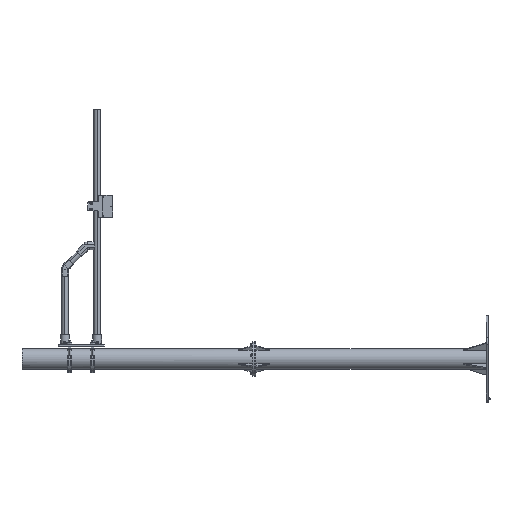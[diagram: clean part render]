
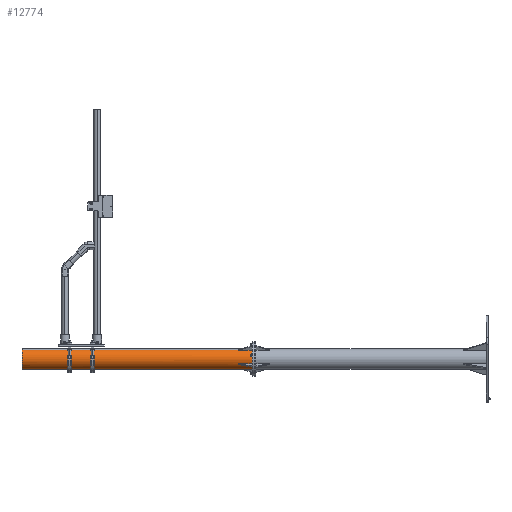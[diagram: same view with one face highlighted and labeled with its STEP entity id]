
A CAD part, left-side view. The second image highlights one B-rep face of the part: STEP entity #12774.
In plain terms, the highlighted cylindrical face has radius 44.25 mm (diameter 88.5 mm), a partial arc.
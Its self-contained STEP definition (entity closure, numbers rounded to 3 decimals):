
#95 = VERTEX_POINT ( 'NONE', #1404 ) ;
#181 = ORIENTED_EDGE ( 'NONE', *, *, #7230, .F. ) ;
#228 = CARTESIAN_POINT ( 'NONE',  ( 0., 256.388, -55. ) ) ;
#394 = CARTESIAN_POINT ( 'NONE',  ( 0., -743.612, -55. ) ) ;
#493 = EDGE_CURVE ( 'NONE', #95, #13401, #4334, .T. ) ;
#1001 = DIRECTION ( 'NONE',  ( -0.5, 0., 0.866 ) ) ;
#1305 = ORIENTED_EDGE ( 'NONE', *, *, #5804, .F. ) ;
#1374 = VECTOR ( 'NONE', #5513, 1000. ) ;
#1404 = CARTESIAN_POINT ( 'NONE',  ( 22.125, -683.612, -93.322 ) ) ;
#1428 = VERTEX_POINT ( 'NONE', #11315 ) ;
#1486 = CARTESIAN_POINT ( 'NONE',  ( 22.125, -683.612, -93.322 ) ) ;
#1613 = VERTEX_POINT ( 'NONE', #4742 ) ;
#1785 = VERTEX_POINT ( 'NONE', #5228 ) ;
#1849 = CARTESIAN_POINT ( 'NONE',  ( -23.557, -683.547, -17.533 ) ) ;
#2133 = ORIENTED_EDGE ( 'NONE', *, *, #14544, .T. ) ;
#2352 =( BOUNDED_CURVE ( )  B_SPLINE_CURVE ( 3, ( #12473, #1849, #13407, #14651 ),
 .UNSPECIFIED., .F., .T. ) 
 B_SPLINE_CURVE_WITH_KNOTS ( ( 4, 4 ),
 ( 3.085, 3.142 ),
 .UNSPECIFIED. ) 
 CURVE ( )  GEOMETRIC_REPRESENTATION_ITEM ( )  RATIONAL_B_SPLINE_CURVE ( ( 1., 1., 1., 1. ) ) 
 REPRESENTATION_ITEM ( '' )  );
#2663 = CARTESIAN_POINT ( 'NONE',  ( -38.759, -683.677, -76.414 ) ) ;
#2682 = CARTESIAN_POINT ( 'NONE',  ( 22.125, -743.612, -93.322 ) ) ;
#2773 = CARTESIAN_POINT ( 'NONE',  ( 21.403, -683.612, -93.739 ) ) ;
#2865 = CARTESIAN_POINT ( 'NONE',  ( 20.669, -683.547, -94.135 ) ) ;
#2883 = CARTESIAN_POINT ( 'NONE',  ( -39.51, -743.612, -74.925 ) ) ;
#2905 = DIRECTION ( 'NONE',  ( 0.5, 0., -0.866 ) ) ;
#3099 =( BOUNDED_CURVE ( )  B_SPLINE_CURVE ( 3, ( #1486, #2773, #2865, #13345 ),
 .UNSPECIFIED., .F., .F. ) 
 B_SPLINE_CURVE_WITH_KNOTS ( ( 4, 4 ),
 ( 3.142, 3.198 ),
 .UNSPECIFIED. ) 
 CURVE ( )  GEOMETRIC_REPRESENTATION_ITEM ( )  RATIONAL_B_SPLINE_CURVE ( ( 1., 1., 1., 1. ) ) 
 REPRESENTATION_ITEM ( '' )  );
#3131 = CARTESIAN_POINT ( 'NONE',  ( -37.925, -683.677, -77.859 ) ) ;
#3453 = EDGE_CURVE ( 'NONE', #6480, #1613, #2352, .T. ) ;
#3472 = VERTEX_POINT ( 'NONE', #12421 ) ;
#3654 = LINE ( 'NONE', #12259, #4192 ) ;
#3913 = ORIENTED_EDGE ( 'NONE', *, *, #14831, .T. ) ;
#3943 = CARTESIAN_POINT ( 'NONE',  ( -39.51, -683.418, -74.925 ) ) ;
#4023 = AXIS2_PLACEMENT_3D ( 'NONE', #228, #8458, #13050 ) ;
#4192 = VECTOR ( 'NONE', #5324, 1000. ) ;
#4334 = LINE ( 'NONE', #2682, #4531 ) ;
#4531 = VECTOR ( 'NONE', #14408, 1000. ) ;
#4742 = CARTESIAN_POINT ( 'NONE',  ( -22.125, -683.612, -16.678 ) ) ;
#4841 = EDGE_LOOP ( 'NONE', ( #12181, #9934, #5168, #10913, #3913, #8026, #1305, #2133, #15020, #11519, #181, #12099 ) ) ;
#4850 = EDGE_CURVE ( 'NONE', #3472, #6480, #3654, .T. ) ;
#4945 = AXIS2_PLACEMENT_3D ( 'NONE', #394, #13281, #2905 ) ;
#4962 = DIRECTION ( 'NONE',  ( -0.5, 0., 0.866 ) ) ;
#5007 = CIRCLE ( 'NONE', #8125, 44.25 ) ;
#5168 = ORIENTED_EDGE ( 'NONE', *, *, #8578, .T. ) ;
#5228 = CARTESIAN_POINT ( 'NONE',  ( 19.925, -743.612, -94.51 ) ) ;
#5243 = VECTOR ( 'NONE', #15113, 1000. ) ;
#5324 = DIRECTION ( 'NONE',  ( 0., 1., 0. ) ) ;
#5513 = DIRECTION ( 'NONE',  ( 0., 1., 0. ) ) ;
#5537 = VERTEX_POINT ( 'NONE', #14884 ) ;
#5611 =( BOUNDED_CURVE ( )  B_SPLINE_CURVE ( 3, ( #12723, #3131, #2663, #3943 ),
 .UNSPECIFIED., .F., .F. ) 
 B_SPLINE_CURVE_WITH_KNOTS ( ( 4, 4 ),
 ( 3.085, 3.198 ),
 .UNSPECIFIED. ) 
 CURVE ( )  GEOMETRIC_REPRESENTATION_ITEM ( )  RATIONAL_B_SPLINE_CURVE ( ( 1., 0.999, 0.999, 1. ) ) 
 REPRESENTATION_ITEM ( '' )  );
#5804 = EDGE_CURVE ( 'NONE', #1428, #1785, #5007, .T. ) ;
#6480 = VERTEX_POINT ( 'NONE', #10259 ) ;
#7230 = EDGE_CURVE ( 'NONE', #3472, #15161, #8254, .T. ) ;
#7254 = VERTEX_POINT ( 'NONE', #13204 ) ;
#7383 = LINE ( 'NONE', #10434, #9380 ) ;
#7944 = CARTESIAN_POINT ( 'NONE',  ( -37.01, -743.612, -79.255 ) ) ;
#8026 = ORIENTED_EDGE ( 'NONE', *, *, #11712, .F. ) ;
#8125 = AXIS2_PLACEMENT_3D ( 'NONE', #12025, #9577, #4962 ) ;
#8254 = CIRCLE ( 'NONE', #15183, 44.25 ) ;
#8458 = DIRECTION ( 'NONE',  ( 0., -1., 0. ) ) ;
#8578 = EDGE_CURVE ( 'NONE', #7254, #13401, #12571, .T. ) ;
#8906 = LINE ( 'NONE', #2883, #12546 ) ;
#9380 = VECTOR ( 'NONE', #12631, 1000. ) ;
#9577 = DIRECTION ( 'NONE',  ( 0., -1., 0. ) ) ;
#9782 = LINE ( 'NONE', #12407, #1374 ) ;
#9796 = LINE ( 'NONE', #7944, #5243 ) ;
#9921 = EDGE_CURVE ( 'NONE', #15161, #5537, #8906, .T. ) ;
#9934 = ORIENTED_EDGE ( 'NONE', *, *, #15056, .T. ) ;
#10259 = CARTESIAN_POINT ( 'NONE',  ( -24.255, -683.418, -17.99 ) ) ;
#10434 = CARTESIAN_POINT ( 'NONE',  ( 19.925, -743.612, -94.51 ) ) ;
#10448 = VERTEX_POINT ( 'NONE', #13489 ) ;
#10746 = CYLINDRICAL_SURFACE ( 'NONE', #4945, 44.25 ) ;
#10913 = ORIENTED_EDGE ( 'NONE', *, *, #493, .F. ) ;
#10948 = FACE_OUTER_BOUND ( 'NONE', #4841, .T. ) ;
#11315 = CARTESIAN_POINT ( 'NONE',  ( -37.01, -743.612, -79.255 ) ) ;
#11485 = CARTESIAN_POINT ( 'NONE',  ( 0., -743.612, -55. ) ) ;
#11519 = ORIENTED_EDGE ( 'NONE', *, *, #9921, .F. ) ;
#11698 = CARTESIAN_POINT ( 'NONE',  ( -39.51, -743.612, -74.925 ) ) ;
#11712 = EDGE_CURVE ( 'NONE', #1785, #10448, #7383, .T. ) ;
#11908 = CARTESIAN_POINT ( 'NONE',  ( 22.125, 256.388, -93.322 ) ) ;
#12025 = CARTESIAN_POINT ( 'NONE',  ( 0., -743.612, -55. ) ) ;
#12099 = ORIENTED_EDGE ( 'NONE', *, *, #4850, .T. ) ;
#12181 = ORIENTED_EDGE ( 'NONE', *, *, #3453, .T. ) ;
#12259 = CARTESIAN_POINT ( 'NONE',  ( -24.255, -743.612, -17.99 ) ) ;
#12407 = CARTESIAN_POINT ( 'NONE',  ( -22.125, -743.612, -16.678 ) ) ;
#12421 = CARTESIAN_POINT ( 'NONE',  ( -24.255, -743.612, -17.99 ) ) ;
#12424 = DIRECTION ( 'NONE',  ( 0., 1., 0. ) ) ;
#12473 = CARTESIAN_POINT ( 'NONE',  ( -24.255, -683.418, -17.99 ) ) ;
#12546 = VECTOR ( 'NONE', #12424, 1000. ) ;
#12571 = CIRCLE ( 'NONE', #4023, 44.25 ) ;
#12631 = DIRECTION ( 'NONE',  ( 0., 1., 0. ) ) ;
#12723 = CARTESIAN_POINT ( 'NONE',  ( -37.01, -683.418, -79.255 ) ) ;
#12774 = ADVANCED_FACE ( 'NONE', ( #10948 ), #10746, .T. ) ;
#13050 = DIRECTION ( 'NONE',  ( -0.5, 0., 0.866 ) ) ;
#13204 = CARTESIAN_POINT ( 'NONE',  ( -22.125, 256.388, -16.678 ) ) ;
#13281 = DIRECTION ( 'NONE',  ( 0., 1., 0. ) ) ;
#13345 = CARTESIAN_POINT ( 'NONE',  ( 19.925, -683.418, -94.51 ) ) ;
#13401 = VERTEX_POINT ( 'NONE', #11908 ) ;
#13407 = CARTESIAN_POINT ( 'NONE',  ( -22.847, -683.612, -17.095 ) ) ;
#13489 = CARTESIAN_POINT ( 'NONE',  ( 19.925, -683.418, -94.51 ) ) ;
#14014 = CARTESIAN_POINT ( 'NONE',  ( -37.01, -683.418, -79.255 ) ) ;
#14323 = EDGE_CURVE ( 'NONE', #15108, #5537, #5611, .T. ) ;
#14408 = DIRECTION ( 'NONE',  ( 0., 1., 0. ) ) ;
#14544 = EDGE_CURVE ( 'NONE', #1428, #15108, #9796, .T. ) ;
#14651 = CARTESIAN_POINT ( 'NONE',  ( -22.125, -683.612, -16.678 ) ) ;
#14831 = EDGE_CURVE ( 'NONE', #95, #10448, #3099, .T. ) ;
#14884 = CARTESIAN_POINT ( 'NONE',  ( -39.51, -683.418, -74.925 ) ) ;
#15020 = ORIENTED_EDGE ( 'NONE', *, *, #14323, .T. ) ;
#15037 = DIRECTION ( 'NONE',  ( 0., -1., 0. ) ) ;
#15056 = EDGE_CURVE ( 'NONE', #1613, #7254, #9782, .T. ) ;
#15108 = VERTEX_POINT ( 'NONE', #14014 ) ;
#15113 = DIRECTION ( 'NONE',  ( 0., 1., 0. ) ) ;
#15161 = VERTEX_POINT ( 'NONE', #11698 ) ;
#15183 = AXIS2_PLACEMENT_3D ( 'NONE', #11485, #15037, #1001 ) ;
